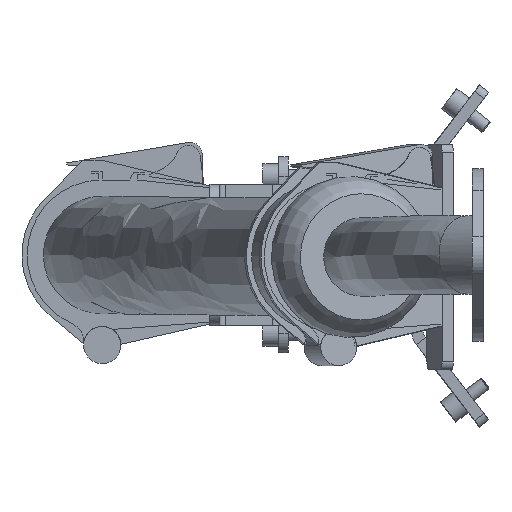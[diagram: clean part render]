
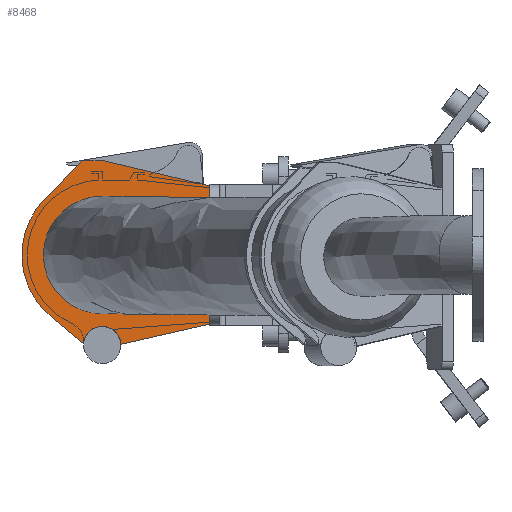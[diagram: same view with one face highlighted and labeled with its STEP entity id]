
A CAD part, left-side view. The second image highlights one B-rep face of the part: STEP entity #8468.
In plain terms, the highlighted planar face has unit normal (-1, 0, 0).
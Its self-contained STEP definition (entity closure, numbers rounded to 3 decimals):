
#27 = AXIS2_PLACEMENT_3D ( 'NONE', #4684, #11069, #902 ) ;
#82 = CARTESIAN_POINT ( 'NONE',  ( 1555.308, 307.068, 2173.349 ) ) ;
#96 = FACE_OUTER_BOUND ( 'NONE', #11345, .T. ) ;
#216 = VECTOR ( 'NONE', #5681, 1000. ) ;
#294 = ORIENTED_EDGE ( 'NONE', *, *, #12047, .T. ) ;
#437 = DIRECTION ( 'NONE',  ( 0., 1., 0. ) ) ;
#488 = EDGE_CURVE ( 'NONE', #4788, #1754, #2845, .T. ) ;
#578 = DIRECTION ( 'NONE',  ( 0., 0., -1. ) ) ;
#713 = ORIENTED_EDGE ( 'NONE', *, *, #5917, .T. ) ;
#902 = DIRECTION ( 'NONE',  ( 0., 0., -1. ) ) ;
#1008 = CARTESIAN_POINT ( 'NONE',  ( 1555.305, 281., 2253.195 ) ) ;
#1021 = VECTOR ( 'NONE', #5611, 1000. ) ;
#1030 = ORIENTED_EDGE ( 'NONE', *, *, #4411, .T. ) ;
#1077 = CARTESIAN_POINT ( 'NONE',  ( 1555.306, 310.155, 2233.822 ) ) ;
#1141 = VECTOR ( 'NONE', #4542, 1000. ) ;
#1156 = EDGE_CURVE ( 'NONE', #1784, #10010, #2823, .T. ) ;
#1339 = CIRCLE ( 'NONE', #5231, 9.5 ) ;
#1361 = DIRECTION ( 'NONE',  ( 0., 0., -1. ) ) ;
#1441 = CARTESIAN_POINT ( 'NONE',  ( 1555.309, 290.475, 2159.681 ) ) ;
#1555 = CARTESIAN_POINT ( 'NONE',  ( 1555.306, 281., 2234.995 ) ) ;
#1747 = CARTESIAN_POINT ( 'NONE',  ( 1555.305, 291., 2253.195 ) ) ;
#1754 = VERTEX_POINT ( 'NONE', #9671 ) ;
#1784 = VERTEX_POINT ( 'NONE', #8454 ) ;
#1789 = CARTESIAN_POINT ( 'NONE',  ( 1555.306, 226., 2230.995 ) ) ;
#1852 = DIRECTION ( 'NONE',  ( 0., 0., -1. ) ) ;
#1863 = ORIENTED_EDGE ( 'NONE', *, *, #11673, .F. ) ;
#1926 = VERTEX_POINT ( 'NONE', #2559 ) ;
#1999 = CARTESIAN_POINT ( 'NONE',  ( 1555.306, 310.155, 2233.822 ) ) ;
#2031 = CARTESIAN_POINT ( 'NONE',  ( 1555.309, 226., 2169.695 ) ) ;
#2055 = ORIENTED_EDGE ( 'NONE', *, *, #11586, .F. ) ;
#2086 = VERTEX_POINT ( 'NONE', #8965 ) ;
#2484 = ORIENTED_EDGE ( 'NONE', *, *, #1156, .T. ) ;
#2559 = CARTESIAN_POINT ( 'NONE',  ( 1555.306, 221., 2230.995 ) ) ;
#2606 = VERTEX_POINT ( 'NONE', #1555 ) ;
#2665 = LINE ( 'NONE', #9836, #11986 ) ;
#2804 = FACE_BOUND ( 'NONE', #7453, .T. ) ;
#2823 = LINE ( 'NONE', #2879, #1021 ) ;
#2845 = LINE ( 'NONE', #82, #216 ) ;
#2879 = CARTESIAN_POINT ( 'NONE',  ( 1555.309, 270.614, 2159.508 ) ) ;
#2913 = DIRECTION ( 'NONE',  ( 0., 0.974, 0.228 ) ) ;
#3124 = CIRCLE ( 'NONE', #4115, 41. ) ;
#3161 = ORIENTED_EDGE ( 'NONE', *, *, #11072, .T. ) ;
#3351 = DIRECTION ( 'NONE',  ( 0., 0., 1. ) ) ;
#3389 = CARTESIAN_POINT ( 'NONE',  ( 1555.307, 281., 2204.995 ) ) ;
#3492 = AXIS2_PLACEMENT_3D ( 'NONE', #3389, #7067, #5507 ) ;
#3621 = DIRECTION ( 'NONE',  ( 0., 0., 1. ) ) ;
#4027 = CARTESIAN_POINT ( 'NONE',  ( 1555.308, 226., 2178.995 ) ) ;
#4115 = AXIS2_PLACEMENT_3D ( 'NONE', #5940, #6907, #578 ) ;
#4238 = CARTESIAN_POINT ( 'NONE',  ( 1555.306, 185.999, 2230.995 ) ) ;
#4411 = EDGE_CURVE ( 'NONE', #4555, #5087, #7469, .T. ) ;
#4542 = DIRECTION ( 'NONE',  ( 0., 1., 0. ) ) ;
#4555 = VERTEX_POINT ( 'NONE', #1747 ) ;
#4637 = VECTOR ( 'NONE', #3351, 1000. ) ;
#4684 = CARTESIAN_POINT ( 'NONE',  ( 1555.307, 281., 2204.995 ) ) ;
#4788 = VERTEX_POINT ( 'NONE', #1441 ) ;
#5032 = CARTESIAN_POINT ( 'NONE',  ( 1555.309, 281., 2158.995 ) ) ;
#5087 = VERTEX_POINT ( 'NONE', #1999 ) ;
#5231 = AXIS2_PLACEMENT_3D ( 'NONE', #5032, #7763, #1361 ) ;
#5507 = DIRECTION ( 'NONE',  ( 0., 0., 1. ) ) ;
#5611 = DIRECTION ( 'NONE',  ( 0., -0.975, 0.223 ) ) ;
#5681 = DIRECTION ( 'NONE',  ( 0., 0.772, 0.636 ) ) ;
#5917 = EDGE_CURVE ( 'NONE', #10010, #7452, #9910, .T. ) ;
#5940 = CARTESIAN_POINT ( 'NONE',  ( 1555.307, 281., 2204.995 ) ) ;
#6193 = CARTESIAN_POINT ( 'NONE',  ( 1555.308, 221., 2178.995 ) ) ;
#6235 = EDGE_CURVE ( 'NONE', #1926, #6371, #10649, .T. ) ;
#6371 = VERTEX_POINT ( 'NONE', #1789 ) ;
#6387 = EDGE_CURVE ( 'NONE', #9939, #4555, #7255, .T. ) ;
#6612 = CARTESIAN_POINT ( 'NONE',  ( 1555.305, 226., 2240.295 ) ) ;
#6907 = DIRECTION ( 'NONE',  ( -1., 0., 0. ) ) ;
#6998 = ORIENTED_EDGE ( 'NONE', *, *, #7653, .T. ) ;
#7028 = EDGE_CURVE ( 'NONE', #1784, #4788, #1339, .T. ) ;
#7067 = DIRECTION ( 'NONE',  ( -1., 0., 0. ) ) ;
#7146 = VECTOR ( 'NONE', #1852, 1000. ) ;
#7148 = VECTOR ( 'NONE', #437, 1000. ) ;
#7205 = CARTESIAN_POINT ( 'NONE',  ( 1555.305, 281., 2253.195 ) ) ;
#7255 = LINE ( 'NONE', #10124, #1141 ) ;
#7363 = PLANE ( 'NONE',  #27 ) ;
#7452 = VERTEX_POINT ( 'NONE', #4027 ) ;
#7453 = EDGE_LOOP ( 'NONE', ( #2055 ) ) ;
#7469 = LINE ( 'NONE', #1077, #11029 ) ;
#7593 = LINE ( 'NONE', #6612, #12032 ) ;
#7653 = EDGE_CURVE ( 'NONE', #5087, #1754, #3124, .T. ) ;
#7763 = DIRECTION ( 'NONE',  ( -1., 0., 0. ) ) ;
#7786 = VECTOR ( 'NONE', #2913, 1000. ) ;
#7822 = EDGE_CURVE ( 'NONE', #2086, #9939, #8670, .T. ) ;
#7986 = ORIENTED_EDGE ( 'NONE', *, *, #488, .F. ) ;
#8070 = DIRECTION ( 'NONE',  ( 0., -1., 0. ) ) ;
#8204 = ORIENTED_EDGE ( 'NONE', *, *, #7822, .T. ) ;
#8369 = VERTEX_POINT ( 'NONE', #6193 ) ;
#8454 = CARTESIAN_POINT ( 'NONE',  ( 1555.309, 271.505, 2159.305 ) ) ;
#8468 = ADVANCED_FACE ( 'NONE', ( #2804, #96 ), #7363, .F. ) ;
#8588 = ORIENTED_EDGE ( 'NONE', *, *, #7028, .F. ) ;
#8670 = LINE ( 'NONE', #1008, #7786 ) ;
#8965 = CARTESIAN_POINT ( 'NONE',  ( 1555.305, 226., 2240.295 ) ) ;
#9265 = LINE ( 'NONE', #10182, #7146 ) ;
#9297 = CIRCLE ( 'NONE', #3492, 30. ) ;
#9671 = CARTESIAN_POINT ( 'NONE',  ( 1555.308, 307.068, 2173.349 ) ) ;
#9836 = CARTESIAN_POINT ( 'NONE',  ( 1555.308, 185.999, 2178.995 ) ) ;
#9910 = LINE ( 'NONE', #11847, #4637 ) ;
#9939 = VERTEX_POINT ( 'NONE', #7205 ) ;
#10010 = VERTEX_POINT ( 'NONE', #2031 ) ;
#10124 = CARTESIAN_POINT ( 'NONE',  ( 1555.305, 291., 2253.195 ) ) ;
#10182 = CARTESIAN_POINT ( 'NONE',  ( 1555.309, 221., 2168.995 ) ) ;
#10649 = LINE ( 'NONE', #4238, #7148 ) ;
#11029 = VECTOR ( 'NONE', #11911, 1000. ) ;
#11069 = DIRECTION ( 'NONE',  ( 1., 0., 0. ) ) ;
#11072 = EDGE_CURVE ( 'NONE', #7452, #8369, #2665, .T. ) ;
#11269 = ORIENTED_EDGE ( 'NONE', *, *, #6235, .T. ) ;
#11345 = EDGE_LOOP ( 'NONE', ( #7986, #8588, #2484, #713, #3161, #1863, #11269, #294, #8204, #11956, #1030, #6998 ) ) ;
#11586 = EDGE_CURVE ( 'NONE', #2606, #2606, #9297, .T. ) ;
#11673 = EDGE_CURVE ( 'NONE', #1926, #8369, #9265, .T. ) ;
#11847 = CARTESIAN_POINT ( 'NONE',  ( 1555.305, 226., 2240.295 ) ) ;
#11911 = DIRECTION ( 'NONE',  ( 0., 0.703, -0.711 ) ) ;
#11956 = ORIENTED_EDGE ( 'NONE', *, *, #6387, .T. ) ;
#11986 = VECTOR ( 'NONE', #8070, 1000. ) ;
#12032 = VECTOR ( 'NONE', #3621, 1000. ) ;
#12047 = EDGE_CURVE ( 'NONE', #6371, #2086, #7593, .T. ) ;
